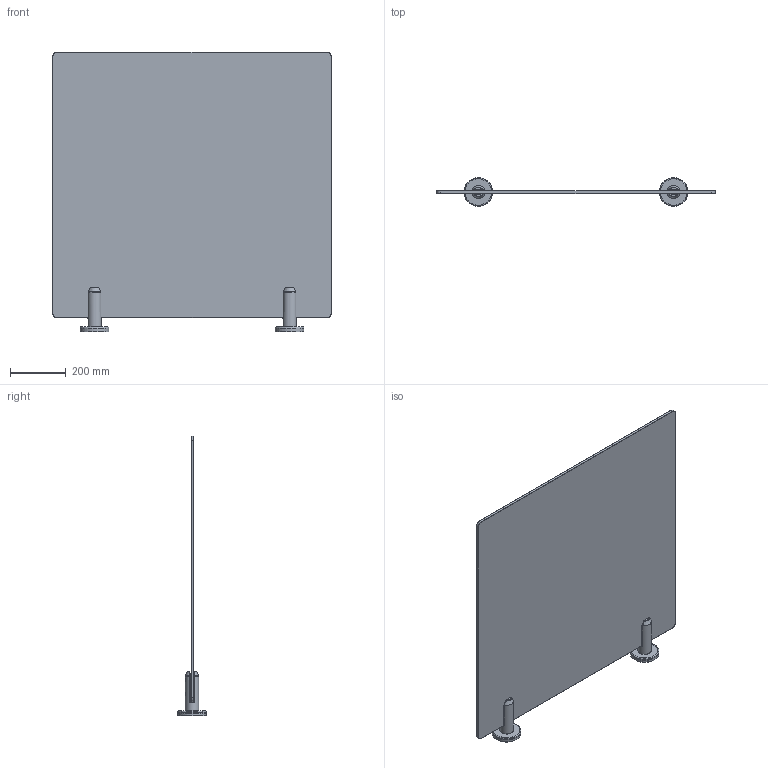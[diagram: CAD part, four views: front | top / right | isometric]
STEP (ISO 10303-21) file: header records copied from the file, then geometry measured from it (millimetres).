
FILE_DESCRIPTION(/* description */ ('Unknown'),/* implementation_level */ '2;1');
FILE_NAME(/* name */ 'BH06_1000',/* time_stamp */ '2021-12-27T11:40:00+03:00',/* author */ ('Unknown'),/* organization */ ('Unknown'),/* preprocessor_version */ 'ST-DEVELOPER v18.1',/* originating_system */ 'Solid Edge',/* authorisation */ 'Unknown');
FILE_SCHEMA (('CONFIG_CONTROL_DESIGN'));
Length unit declared in the file: millimetre
Products named in the file (10): BH06_1000; ÂÍ-06.000.00 Ìèíè-ñòîéêà äëÿ ñòåêë îãð; ﾂ竟M10x16_DIN_913_淲._ﾀ2; Âèíò Ì10õ25 DIN 7991; ÂÍ06_êðûøêà äåêîðàòèâíàÿ; ÂÍ06_ïðèæèìíàÿ ïëàñòèíà; ÂÍ06_ïðîêëàäêà; 蟬06_鐏鳧氀; 蟬06_嚦鍣罻; 蟬-06.000.01-01 栺樏鋋
Assembly tree (11 placements, depth 3):
  BH06_1000
    ÂÍ-06.000.00 Ìèíè-ñòîéêà äëÿ ñòåêë îãð  x2
      ﾂ竟M10x16_DIN_913_淲._ﾀ2
      Âèíò Ì10õ25 DIN 7991
      ÂÍ06_êðûøêà äåêîðàòèâíàÿ
      ÂÍ06_ïðèæèìíàÿ ïëàñòèíà
      ÂÍ06_ïðîêëàäêà
      蟬06_鐏鳧氀
      蟬06_嚦鍣罻
    蟬-06.000.01-01 栺樏鋋
Bounding box: 1000 x 103 x 1002 mm (x, y, z)
Volume: 10050433 mm3; surface area: 2146007.3 mm2
Topology: 17 solids, 17 shells, 268 faces, 654 edges, 422 vertices
Faces by surface type: plane 128, cylinder 68, cone 58, torus 14
Full cylindrical faces by diameter (mm): 8.376 x6, 10 x6, 12 x2, 16.5 x8, 20 x4, 48 x2, 49 x2, 100 x2, 101 x2, 103 x2
Entity records: 4377 total; most frequent: CARTESIAN_POINT 792, DIRECTION 630, ORIENTED_EDGE 562, EDGE_CURVE 281, AXIS2_PLACEMENT_3D 245, VERTEX_POINT 199, FACE_BOUND 188, EDGE_LOOP 186
